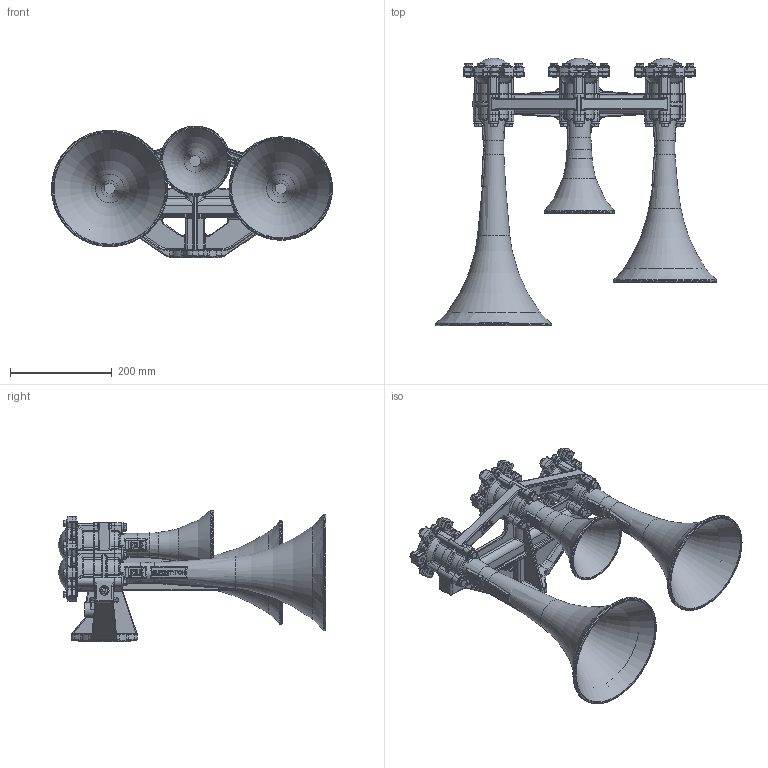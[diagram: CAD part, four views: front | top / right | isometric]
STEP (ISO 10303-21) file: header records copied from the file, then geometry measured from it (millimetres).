
FILE_DESCRIPTION(/* description */ (''),/* implementation_level */ '2;1');
FILE_NAME(/* name */ 'E:/hidden/Engineering Projects/Leslie Controls SuperTyfon/CAD/Assemblies/SuperTyfon S-3K.step',/* time_stamp */ '2022-08-19T15:39:20+10:00',/* author */ (''),/* organization */ (''),/* preprocessor_version */ 'ST-DEVELOPER v19',/* originating_system */ 'Autodesk Translation Framework v11.7.0.108',/* authorisation */ '');
FILE_SCHEMA (('AUTOMOTIVE_DESIGN { 1 0 10303 214 3 1 1 }'));
Length unit declared in the file: millimetre
Products named in the file (22): SuperTyfon S-3K; 26020 Three Horn Base; Plug Weld; 24311 Gasket; #140535; #140536; #140537; 24438 Diaphragm Ring; 24437 Diaphragm; 25190 Diaphragm Ring Screw; 25200 Cap Screw, Back Cover; 13077 Lock Washer; 24503 Cap Screw, Horn; 10392 Lock Washer; 25202 Back Cover, Complete; 25190 Diaphragm Housing; #140547; #140548; #140549; #140550; #140551; #140552
Assembly tree (93 placements, depth 3):
  SuperTyfon S-3K
    26020 Three Horn Base
      Plug Weld  x2
    24311 Gasket  x6
    #140535
      #140536
      #140537
    25190 Diaphragm Housing  x3
    25202 Back Cover, Complete  x3
    10392 Lock Washer  x9
    24503 Cap Screw, Horn  x9
    13077 Lock Washer  x18
    25200 Cap Screw, Back Cover  x18
    25190 Diaphragm Ring Screw  x9
    24437 Diaphragm  x3
    24438 Diaphragm Ring  x3
    #140547
      #140548
      #140549
    #140550
      #140551
      #140552
Bounding box: 552.45 x 526.19 x 259.56 mm (x, y, z)
Volume: 3077873.8 mm3; surface area: 1183644.5 mm2
Topology: 96 solids, 96 shells, 5154 faces, 12927 edges, 7981 vertices
Faces by surface type: plane 1689, cylinder 1287, bspline 1080, torus 497, cone 429, sphere 172
Full cylindrical faces by diameter (mm): 0.794 x6, 1.191 x27, 1.587 x3, 1.984 x1, 2.381 x1, 2.778 x1, 3.175 x27, 3.572 x3, 4.763 x6, 5.556 x9, 6.35 x6, 7.938 x39, 7.987 x3, 8.136 x6, 8.334 x6, 9.525 x36, 10.319 x27, 11.113 x9, 14.287 x10, 18.256 x1, 22.225 x3, 39.688 x3, 44.45 x3, 44.648 x12, 49.212 x3, 53.975 x3, 69.85 x3, 73.025 x3, 73.223 x3, 85.725 x3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
Entity records: 140493 total; most frequent: CARTESIAN_POINT 58643, ORIENTED_EDGE 18128, DIRECTION 14934, EDGE_CURVE 9064, VERTEX_POINT 5665, AXIS2_PLACEMENT_3D 5630, EDGE_LOOP 3805, LINE 3674
